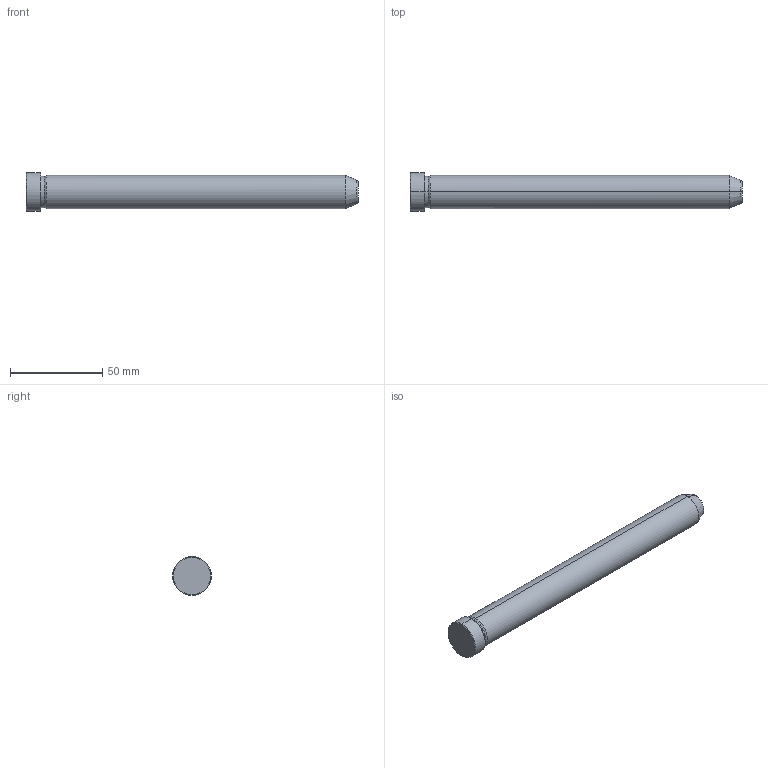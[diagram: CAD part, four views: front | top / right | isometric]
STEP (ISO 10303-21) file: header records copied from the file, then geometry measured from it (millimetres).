
FILE_DESCRIPTION(('CATIA V5 STEP Exchange'),'2;1');
FILE_NAME('C:\Users\Utente\Desktop\IO LAVORO\3D X SITO CF\X SITO\PLASTICA\549\549-18X180.stp','2021-12-11T09:39:40+00:00',('none'),('none'),'CATIA Version 5 Release 20 GA (IN-10)','CATIA V5 STEP AP203','none');
FILE_SCHEMA(('CONFIG_CONTROL_DESIGN'));
Length unit declared in the file: millimetre
Products named in the file (1): 549-18X180
Bounding box: 180 x 21 x 21 mm (x, y, z)
Volume: 45962.5 mm3; surface area: 10773.4 mm2
Topology: 1 solids, 1 shells, 19 faces, 56 edges, 40 vertices
Faces by surface type: cone 8, cylinder 6, plane 3, torus 2
Entity records: 736 total; most frequent: CARTESIAN_POINT 192, ORIENTED_EDGE 112, DIRECTION 86, EDGE_CURVE 56, AXIS2_PLACEMENT_3D 54, VERTEX_POINT 40, CIRCLE 34, EDGE_LOOP 20
